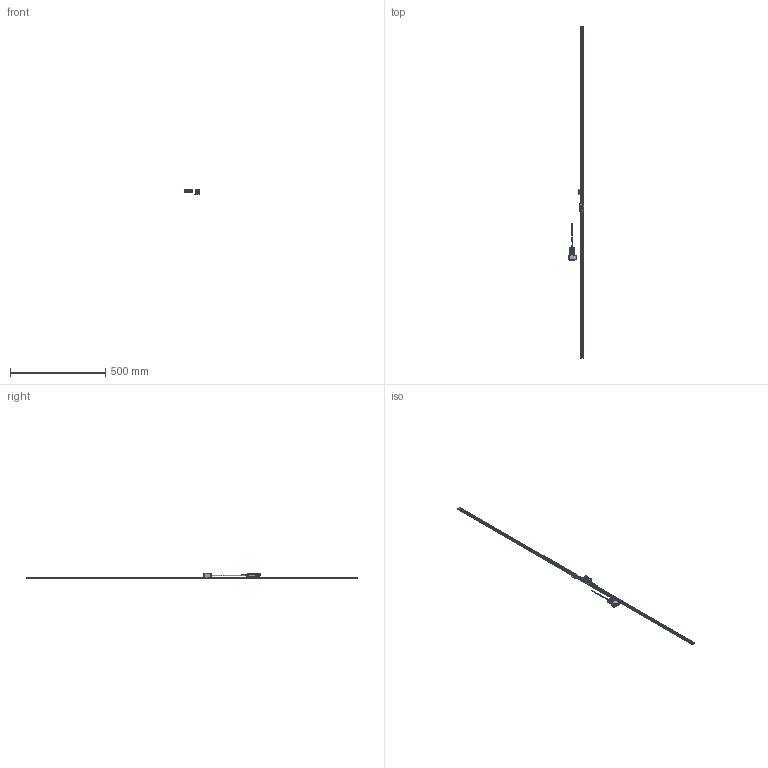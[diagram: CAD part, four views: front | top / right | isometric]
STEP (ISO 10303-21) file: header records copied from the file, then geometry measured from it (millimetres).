
FILE_DESCRIPTION(('Creo Elements/Direct Modeling STEP Export'),'2;1');
FILE_NAME('ST1300-1600F_G.stp','2022-08-16T10:58:32',(''),(''),'Creo Elements/Direct Modeling STEP processor for AP214 (Solid Model)','Creo Elements/Direct Modeling 18.1I 13-Aug-2016 (C) Parametric Technology GmbH','');
FILE_SCHEMA(('AUTOMOTIVE_DESIGN { 1 0 10303 214 1 1 1 1 }'));
Length unit declared in the file: millimetre
Products named in the file (4): Detector_Head; Scale_1700; Connector; ST1300-1700F_G
Assembly tree (3 placements, depth 2):
  ST1300-1700F_G
    Connector
    Scale_1700
    Detector_Head
Bounding box: 83 x 1740 x 30.1 mm (x, y, z)
Volume: 163449.6 mm3; surface area: 97719.7 mm2
Topology: 2 solids, 6 shells, 3625 faces, 9946 edges, 6477 vertices
Faces by surface type: plane 1688, cylinder 1563, extrusion 234, cone 87, torus 26, bspline 23, revolution 4
Entity records: 120517 total; most frequent: CARTESIAN_POINT 28085, ORIENTED_EDGE 19876, DIRECTION 18459, EDGE_CURVE 9934, VERTEX_POINT 6477, AXIS2_PLACEMENT_3D 6183, VECTOR 6087, LINE 5891
